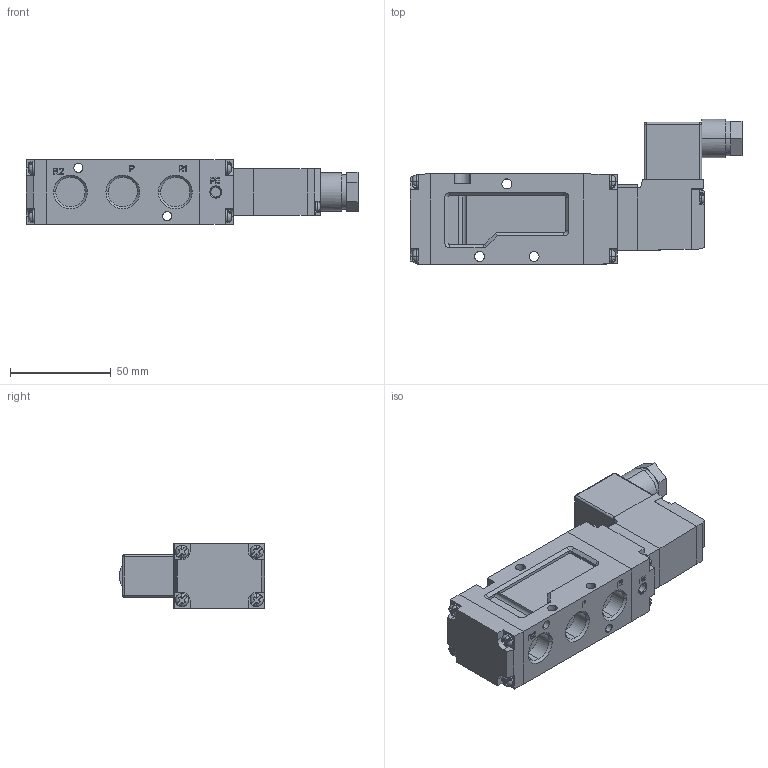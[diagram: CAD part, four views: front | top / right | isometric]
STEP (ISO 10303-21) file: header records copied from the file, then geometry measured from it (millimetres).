
FILE_DESCRIPTION (( 'STEP AP203' ), '1' );
FILE_NAME ('RKS2450-03-#-D.STEP', '2016-02-17T01:16:14', ( 'Sam Lin' ), ( '' ), 'SwSTEP 2.0', 'SolidWorks 2013', '' );
FILE_SCHEMA (( 'CONFIG_CONTROL_DESIGN' ));
Length unit declared in the file: metre
Products named in the file (7): ADAPTER_SV300; BODY_SV300; COIL_ASM_D; END_COVER_SV300; PILOT_BODY; PILOT_COVER; RKS2450-03-#-D
Assembly tree (6 placements, depth 2):
  RKS2450-03-#-D
    ADAPTER_SV300
    BODY_SV300
    COIL_ASM_D
    END_COVER_SV300
    PILOT_BODY
    PILOT_COVER
Bounding box: 164.55 x 72.02 x 32 mm (x, y, z)
Volume: 181411.7 mm3; surface area: 44040.1 mm2
Topology: 6 solids, 6 shells, 713 faces, 1914 edges, 1248 vertices
Faces by surface type: plane 507, cylinder 142, torus 38, cone 20, bspline 6
Entity records: 25092 total; most frequent: CARTESIAN_POINT 6976, ORIENTED_EDGE 3828, DIRECTION 3277, EDGE_CURVE 1914, VERTEX_POINT 1248, LINE 1235, VECTOR 1235, AXIS2_PLACEMENT_3D 1021
